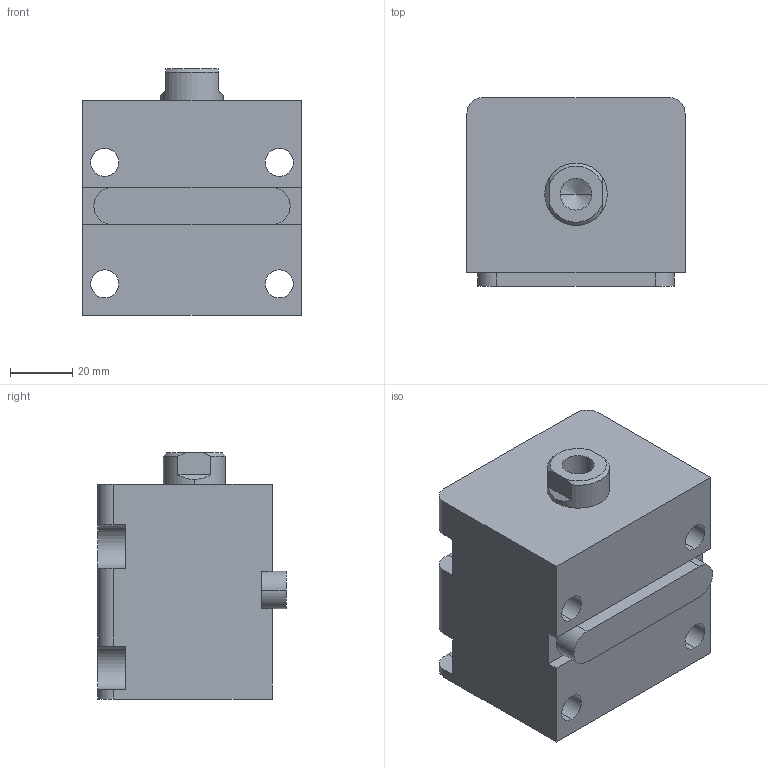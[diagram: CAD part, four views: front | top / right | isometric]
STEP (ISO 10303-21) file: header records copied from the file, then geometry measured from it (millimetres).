
FILE_DESCRIPTION (( 'STEP AP203' ), '1' );
FILE_NAME ('HTB-LA32-15N.STEP', '2019-10-09T06:25:20', ( '微软用户' ), ( '微软中国' ), 'SwSTEP 2.0', 'SolidWorks 2012', '' );
FILE_SCHEMA (( 'CONFIG_CONTROL_DESIGN' ));
Length unit declared in the file: millimetre
Products named in the file (4): HTB-LA32-15掛极; HTB-LA32-瑩; HTB-LA32-15N; HTB-LA32-15N活塞杆
Assembly tree (3 placements, depth 2):
  HTB-LA32-15N
    HTB-LA32-15掛极
    HTB-LA32-15N活塞杆
    HTB-LA32-瑩
Bounding box: 70 x 60.5 x 79 mm (x, y, z)
Volume: 246935.4 mm3; surface area: 47165.7 mm2
Topology: 3 solids, 3 shells, 88 faces, 217 edges, 141 vertices
Faces by surface type: plane 39, cylinder 35, cone 8, torus 6
Entity records: 3053 total; most frequent: DIRECTION 487, CARTESIAN_POINT 478, ORIENTED_EDGE 430, EDGE_CURVE 215, AXIS2_PLACEMENT_3D 186, VERTEX_POINT 141, LINE 115, VECTOR 115
